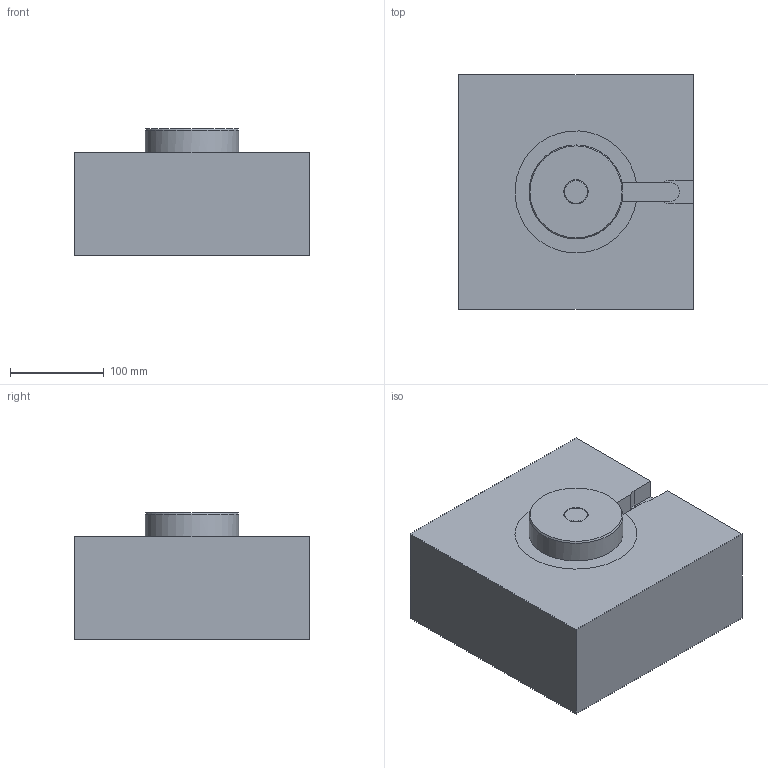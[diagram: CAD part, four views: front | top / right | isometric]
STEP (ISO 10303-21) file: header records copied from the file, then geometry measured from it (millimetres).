
FILE_DESCRIPTION( ( 'STEP AP214' ), '1' );
FILE_NAME( 'S:/PROIECTE_YUDO_2009_dupa_1.07.2009/PROIECTE YUDO 3D 01.07.2009/BLS/YUEU09-BLS18CF080/YUEU09-BLS18CF080.step', '2009-09-29T05:48:11', ( ' ' ), ( ' ' ), 'XStep 1.0', ' ', ' ' );
FILE_SCHEMA( ( 'automotive_design' ) );
Length unit declared in the file: millimetre
Products named in the file (5): 1; 2; 3; 4; 5
Bounding box: 250 x 250 x 135 mm (x, y, z)
Volume: 6962108.3 mm3; surface area: 320625.2 mm2
Topology: 5 solids, 5 shells, 148 faces, 330 edges, 207 vertices
Faces by surface type: plane 66, cylinder 47, cone 24, torus 9, sphere 1, bspline 1
Full cylindrical faces by diameter (mm): 8 x2, 14 x1, 17.1 x1, 18 x1, 18.08 x1, 19 x1, 20 x2, 21.134 x1, 22.9 x1, 24 x1, 25 x3, 25.1 x1, 27.2 x1, 28 x3, 32 x1, 33 x1, 37 x1, 40 x1, 53 x1, 54 x2, 100 x1
Entity records: 5069 total; most frequent: CARTESIAN_POINT 739, DIRECTION 666, ORIENTED_EDGE 526, AXIS2_PLACEMENT_3D 277, EDGE_CURVE 263, EDGE_LOOP 231, VERTEX_POINT 202, FACE_OUTER_BOUND 187
